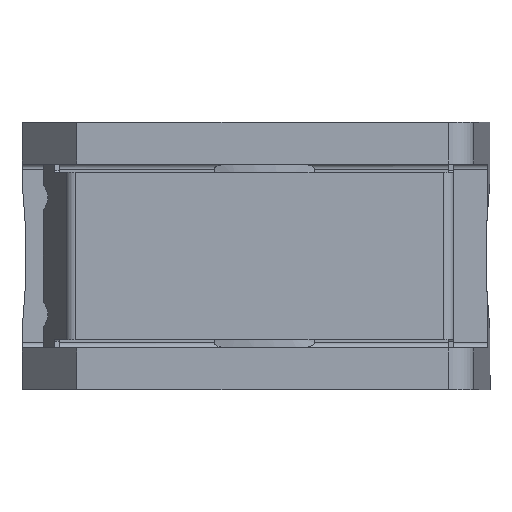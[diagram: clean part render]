
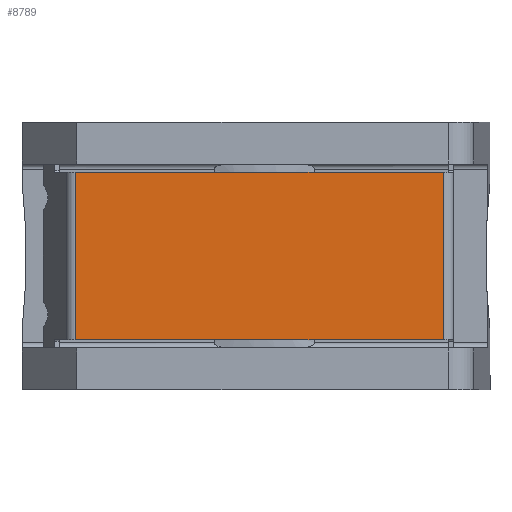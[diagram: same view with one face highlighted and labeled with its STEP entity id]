
A CAD part, front view. The second image highlights one B-rep face of the part: STEP entity #8789.
In plain terms, the highlighted planar face has unit normal (0, -1, 0).
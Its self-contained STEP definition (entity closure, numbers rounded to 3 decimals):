
#37 = CARTESIAN_POINT ( 'NONE',  ( 3., -34.046, 5. ) ) ;
#442 = DIRECTION ( 'NONE',  ( 0., 0., 1. ) ) ;
#1093 = CARTESIAN_POINT ( 'NONE',  ( 25.2, -34.046, -5. ) ) ;
#1797 = DIRECTION ( 'NONE',  ( -1., 0., 0. ) ) ;
#1837 = PLANE ( 'NONE',  #3772 ) ;
#2966 = CARTESIAN_POINT ( 'NONE',  ( 3.21, -34.046, -5. ) ) ;
#3772 = AXIS2_PLACEMENT_3D ( 'NONE', #12120, #13718, #442 ) ;
#4354 = CARTESIAN_POINT ( 'NONE',  ( 3.21, -34.046, 5. ) ) ;
#4436 = CARTESIAN_POINT ( 'NONE',  ( 25.2, -34.046, 7.5 ) ) ;
#4634 = LINE ( 'NONE', #37, #15770 ) ;
#5683 = VECTOR ( 'NONE', #6111, 1000. ) ;
#5709 = EDGE_CURVE ( 'NONE', #13991, #17818, #19704, .T. ) ;
#6111 = DIRECTION ( 'NONE',  ( 0., 0., -1. ) ) ;
#8441 = ORIENTED_EDGE ( 'NONE', *, *, #15817, .T. ) ;
#8789 = ADVANCED_FACE ( 'NONE', ( #9078 ), #1837, .F. ) ;
#9078 = FACE_OUTER_BOUND ( 'NONE', #18579, .T. ) ;
#10363 = DIRECTION ( 'NONE',  ( 1., 0., 0. ) ) ;
#11076 = VECTOR ( 'NONE', #10363, 1000. ) ;
#11645 = VECTOR ( 'NONE', #15111, 1000. ) ;
#12071 = CARTESIAN_POINT ( 'NONE',  ( 3.21, -34.046, 7.5 ) ) ;
#12120 = CARTESIAN_POINT ( 'NONE',  ( 3., -34.046, 7.5 ) ) ;
#13115 = ORIENTED_EDGE ( 'NONE', *, *, #5709, .F. ) ;
#13718 = DIRECTION ( 'NONE',  ( 0., 1., 0. ) ) ;
#13991 = VERTEX_POINT ( 'NONE', #17723 ) ;
#14693 = EDGE_CURVE ( 'NONE', #13991, #15486, #4634, .T. ) ;
#14961 = LINE ( 'NONE', #16942, #11076 ) ;
#15111 = DIRECTION ( 'NONE',  ( 0., 0., 1. ) ) ;
#15486 = VERTEX_POINT ( 'NONE', #4354 ) ;
#15770 = VECTOR ( 'NONE', #1797, 1000. ) ;
#15785 = ORIENTED_EDGE ( 'NONE', *, *, #14693, .T. ) ;
#15817 = EDGE_CURVE ( 'NONE', #17787, #17818, #14961, .T. ) ;
#16942 = CARTESIAN_POINT ( 'NONE',  ( 3., -34.046, -5. ) ) ;
#17723 = CARTESIAN_POINT ( 'NONE',  ( 25.2, -34.046, 5. ) ) ;
#17787 = VERTEX_POINT ( 'NONE', #2966 ) ;
#17818 = VERTEX_POINT ( 'NONE', #1093 ) ;
#18579 = EDGE_LOOP ( 'NONE', ( #13115, #15785, #18929, #8441 ) ) ;
#18610 = EDGE_CURVE ( 'NONE', #17787, #15486, #20454, .T. ) ;
#18929 = ORIENTED_EDGE ( 'NONE', *, *, #18610, .F. ) ;
#19704 = LINE ( 'NONE', #4436, #5683 ) ;
#20454 = LINE ( 'NONE', #12071, #11645 ) ;
